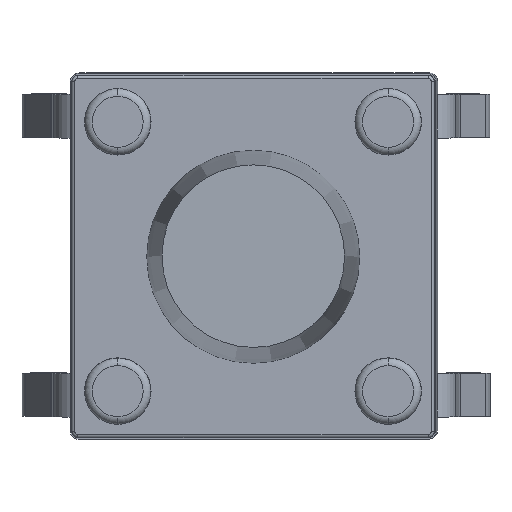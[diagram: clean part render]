
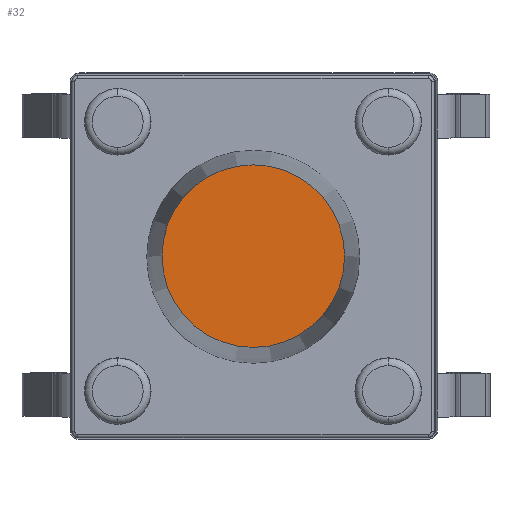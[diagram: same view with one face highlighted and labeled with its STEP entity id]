
A CAD part, top view. The second image highlights one B-rep face of the part: STEP entity #32.
In plain terms, the highlighted planar face has unit normal (0, 0, 1).
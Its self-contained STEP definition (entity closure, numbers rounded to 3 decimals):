
#32 = ADVANCED_FACE('',(#33),#46,.T.);
#33 = FACE_BOUND('',#34,.T.);
#34 = EDGE_LOOP('',(#35));
#35 = ORIENTED_EDGE('',*,*,#36,.T.);
#36 = EDGE_CURVE('',#37,#37,#39,.T.);
#37 = VERTEX_POINT('',#38);
#38 = CARTESIAN_POINT('',(-4.525,-0.033,9.45));
#39 = SURFACE_CURVE('',#40,(#45,#57),.PCURVE_S1.);
#40 = CIRCLE('',#41,1.5);
#41 = AXIS2_PLACEMENT_3D('',#42,#43,#44);
#42 = CARTESIAN_POINT('',(-6.025,-0.033,9.45));
#43 = DIRECTION('',(0.,0.,1.));
#44 = DIRECTION('',(1.,0.,0.));
#45 = PCURVE('',#46,#51);
#46 = PLANE('',#47);
#47 = AXIS2_PLACEMENT_3D('',#48,#49,#50);
#48 = CARTESIAN_POINT('',(-6.025,-0.033,9.45));
#49 = DIRECTION('',(0.,0.,1.));
#50 = DIRECTION('',(1.,0.,0.));
#51 = DEFINITIONAL_REPRESENTATION('',(#52),#56);
#52 = CIRCLE('',#53,1.5);
#53 = AXIS2_PLACEMENT_2D('',#54,#55);
#54 = CARTESIAN_POINT('',(0.,0.));
#55 = DIRECTION('',(1.,0.));
#56 = ( GEOMETRIC_REPRESENTATION_CONTEXT(2) 
PARAMETRIC_REPRESENTATION_CONTEXT() REPRESENTATION_CONTEXT('2D SPACE',''
  ) );
#57 = PCURVE('',#58,#63);
#58 = CONICAL_SURFACE('',#59,1.5,0.043);
#59 = AXIS2_PLACEMENT_3D('',#60,#61,#62);
#60 = CARTESIAN_POINT('',(-6.025,-0.033,9.45));
#61 = DIRECTION('',(-0.,-0.,-1.));
#62 = DIRECTION('',(1.,0.,0.));
#63 = DEFINITIONAL_REPRESENTATION('',(#64),#68);
#64 = LINE('',#65,#66);
#65 = CARTESIAN_POINT('',(-0.,0.));
#66 = VECTOR('',#67,1.);
#67 = DIRECTION('',(-1.,0.));
#68 = ( GEOMETRIC_REPRESENTATION_CONTEXT(2) 
PARAMETRIC_REPRESENTATION_CONTEXT() REPRESENTATION_CONTEXT('2D SPACE',''
  ) );
